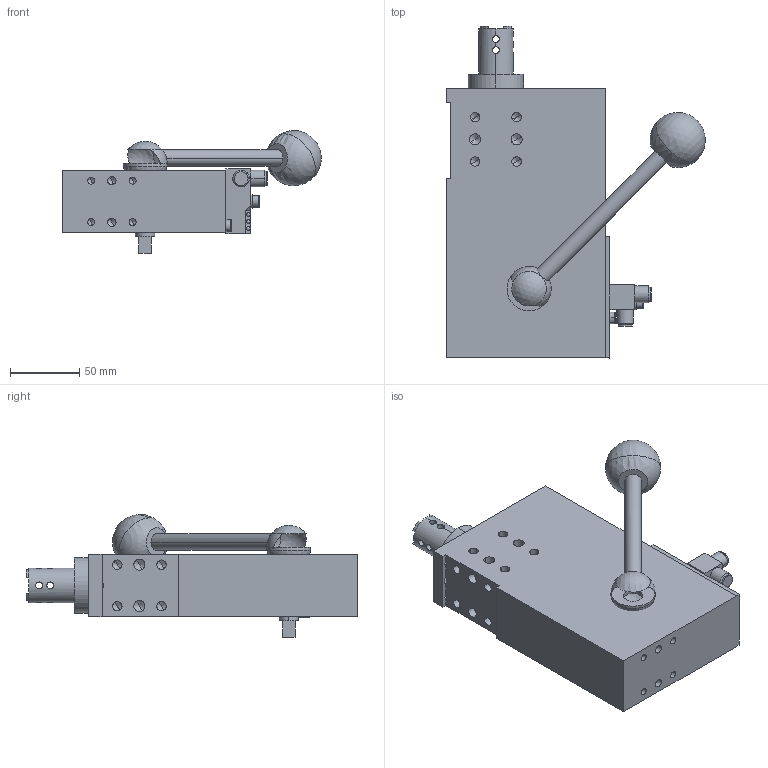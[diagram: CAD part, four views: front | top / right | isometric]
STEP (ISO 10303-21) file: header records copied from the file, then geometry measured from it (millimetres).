
FILE_DESCRIPTION(('CATIA V5 STEP Exchange'),'2;1');
FILE_NAME('G:\Konstruktion\Modelle\UPLOAD\SZV_1_40_Z_A01_T12_TUENKERS.stp','2014-09-18T06:55:47+00:00',('none'),('none'),'CATIA Version 5 Release 19 SP 9 (IN-10)','CATIA V5 STEP AP203','none');
FILE_SCHEMA(('CONFIG_CONTROL_DESIGN'));
Length unit declared in the file: millimetre
Products named in the file (1): SZV_1_40_Z_A01_T12_TUENKERS
Bounding box: 186.89 x 240 x 88.65 mm (x, y, z)
Volume: 1077213.3 mm3; surface area: 106214.9 mm2
Topology: 1 solids, 1 shells, 269 faces, 794 edges, 482 vertices
Faces by surface type: cylinder 119, cone 68, plane 62, sphere 16, torus 4
Entity records: 8410 total; most frequent: CARTESIAN_POINT 2252, ORIENTED_EDGE 1420, DIRECTION 929, EDGE_CURVE 710, VERTEX_POINT 482, AXIS2_PLACEMENT_3D 475, EDGE_LOOP 330, CIRCLE 324
